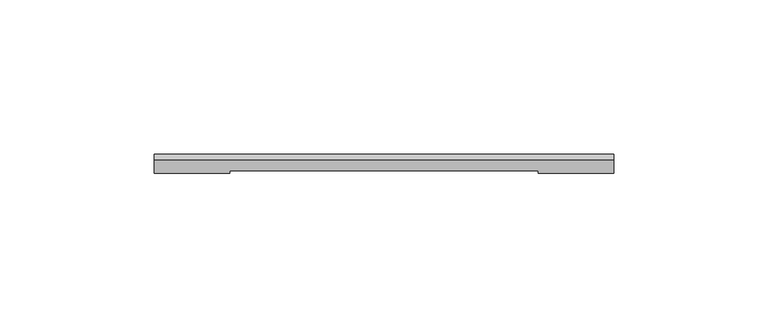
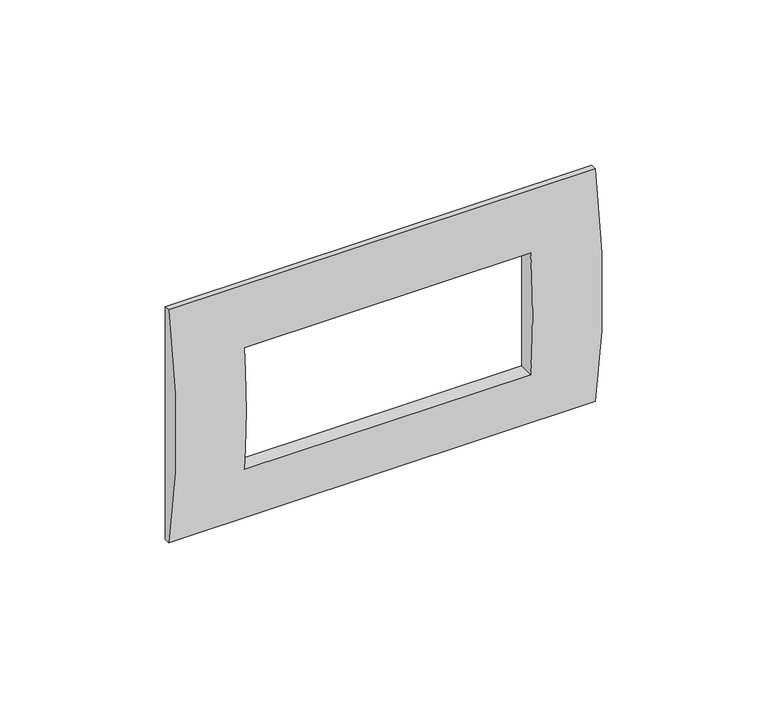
"""IFC4 building model written with IfcOpenShell, lengths in millimetres: proxy geometry, КНС_КаркасыВСбореСРамкамиViva_ILF_DKC : 4 модуля."""

from ifc_helpers import new_model, si_unit, frame, origin, place, context, project, spatial, circle_curve, source, transform, mapped, element, save
from ifc_brep_helpers import plane_surface, cylinder_surface, advanced_brep


def electrical_fixtures_ee8f7c53(model_context):
    return source(origin(), model_context, "Body", "AdvancedBrep", [
        advanced_brep(
        [(74.5, -2.0, 43.0), (74.5, -2.0, -43.0), (74.5, 0.0, -43.0), (74.5, 0.0, 43.0), (-74.5, -2.0, 43.0), (-74.5, 0.0, 43.0), (-74.5, 0.0, -43.0), (-74.5, -2.0, -43.0), (50.0, -5.3525801, 22.5), (50.0, -5.3525801, -22.5), (-50.0, -5.3525801, -22.5), (-50.0, -5.3525801, 22.5), (50.0, 0.0, 22.5), (50.0, 0.0, -22.5), (-50.0, 0.0, -22.5), (-50.0, 0.0, 22.5)],
        [
            (0, 1, circle_curve(frame((74.5, 196.5799224, 0.0), z_axis=(1.0, 0.0, 0.0), x_axis=(0.0, 1.0, 0.0)), 203.1821487)),
            (1, 2),
            (2, 3),
            (3, 0),
            (4, 5),
            (5, 6),
            (6, 7),
            (7, 4, circle_curve(frame((-74.5, 196.5799224, 0.0), z_axis=(-1.0, 0.0, 0.0), x_axis=(0.0, 1.0, 0.0)), 203.1821487)),
            (0, 4),
            (7, 1),
            (8, 9, circle_curve(frame((50.0, 196.5799224, 0.0), z_axis=(1.0, 0.0, 0.0), x_axis=(0.0, 1.0, 0.0)), 203.1821487)),
            (9, 10),
            (10, 11, circle_curve(frame((-50.0, 196.5799224, 0.0), z_axis=(-1.0, 0.0, 0.0), x_axis=(0.0, 1.0, 0.0)), 203.1821487)),
            (11, 8),
            (6, 2),
            (3, 5),
            (8, 12),
            (12, 13),
            (13, 9),
            (10, 14),
            (14, 15),
            (15, 11),
            (15, 12),
            (13, 14),
        ],
        [
            plane_surface(frame((74.5, 399.7620711, 0.0), z_axis=(1.0, 0.0, 0.0), x_axis=(0.0, 0.0, 1.0))),
            plane_surface(frame((-74.5, 399.7620711, 0.0), z_axis=(-1.0, 0.0, 0.0), x_axis=(0.0, 0.0, -1.0))),
            cylinder_surface(frame((-74.5, 196.5799224, 0.0), z_axis=(1.0, 0.0, 0.0), x_axis=(0.0, 1.0, 0.0)), 203.1821487),
            plane_surface(frame((74.5, -2.0, -43.0), z_axis=(0.0, 0.0, -1.0), x_axis=(-1.0, 0.0, 0.0))),
            plane_surface(frame((74.5, 0.0, 43.0), z_axis=(0.0, 0.0, 1.0), x_axis=(-1.0, 0.0, 0.0))),
            plane_surface(frame((50.0, 399.7620711, 0.0), z_axis=(-1.0, 0.0, 0.0), x_axis=(0.0, 0.0, 1.0))),
            plane_surface(frame((-50.0, 399.7620711, 0.0), z_axis=(1.0, 0.0, 0.0), x_axis=(0.0, 0.0, -1.0))),
            plane_surface(frame((50.0, 0.0, 22.5), z_axis=(0.0, 0.0, -1.0), x_axis=(-1.0, 0.0, 0.0))),
            plane_surface(frame((50.0, -5.3525801, -22.5), z_axis=(0.0, 0.0, 1.0), x_axis=(-1.0, 0.0, 0.0))),
            plane_surface(frame((74.5, 0.0, -43.0), z_axis=(0.0, 1.0, 0.0), x_axis=(-1.0, 0.0, 0.0))),
        ],
        [
            (0, [[1, 2, 3, 4]]),
            (1, [[5, 6, 7, 8]]),
            (2, [[-1, 9, -8, 10], [11, 12, 13, 14]]),
            (3, [[-2, -10, -7, 15]]),
            (4, [[-4, 16, -5, -9]]),
            (5, [[17, 18, 19, -11]]),
            (6, [[20, 21, 22, -13]]),
            (7, [[-17, -14, -22, 23]]),
            (8, [[-19, 24, -20, -12]]),
            (9, [[-3, -15, -6, -16], [-18, -23, -21, -24]]),
        ],
    ),
    ])


if __name__ == "__main__":
    model = new_model("IFC4")
    model_context = context("Model", 3, world=origin())
    ifc_project = project(units=[si_unit("LENGTHUNIT", "METRE", prefix="MILLI")], contexts=[model_context])
    site = spatial("IfcSite", under=ifc_project)
    building = spatial("IfcBuilding", under=site)
    placement = place(None, origin())
    electrical_fixtures_shape = electrical_fixtures_ee8f7c53(model_context)
    element("IfcBuildingElementProxy", 1, Name="КНС_КаркасыВСбореСРамкамиViva_ILF_DKC : 4 модуля", ObjectType="КНС_КаркасыВСбореСРамкамиViva_ILF_DKC : 4 модуля", at=placement, inside=building, context=model_context, shape_type="MappedRepresentation", body=[
        mapped(electrical_fixtures_shape, transform((0.0, 0.0, 0.0), x_axis=(1.0, 0.0, 0.0), y_axis=(0.0, 1.0, 0.0), z_axis=(0.0, 0.0, 1.0))),
    ])
    save(model, "model.ifc")
